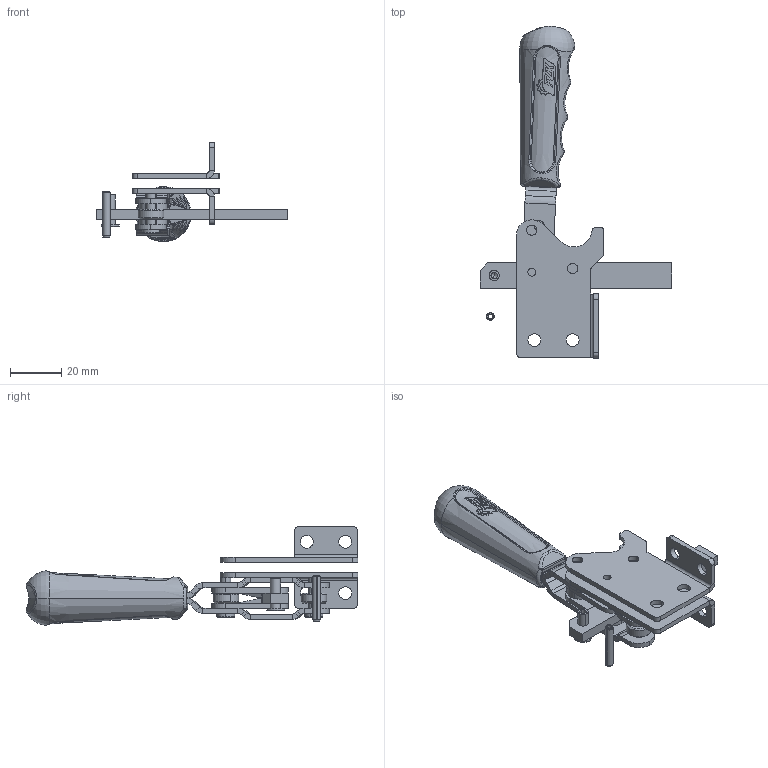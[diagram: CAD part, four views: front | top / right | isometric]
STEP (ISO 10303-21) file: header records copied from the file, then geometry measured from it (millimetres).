
FILE_DESCRIPTION (( 'STEP AP214' ), '1' );
FILE_NAME ('201_Y.STEP', '2024-09-09T16:26:53', ( '' ), ( '' ), 'SwSTEP 2.0', 'SolidWorks 2023', '' );
FILE_SCHEMA (( 'AUTOMOTIVE_DESIGN' ));
Length unit declared in the file: millimetre
Products named in the file (13): FZK_201_B_7_00; FZK_201_B_06_00; FZK_201_B_8_00; FZK_201_B_02A_00; FZK_201_B_04_00; FZK_201_B_02_00; spring pin slotted_hd_din_Spring Pin ISO 8752 - 3 x 18 - St; 201_Y; FZK_201_Y_01_00; FZK_201_B_03_00; DALDIRMA SAP; FZK_201_Y_02_00; FZK_201_B_05_00
Assembly tree (16 placements, depth 3):
  201_Y
    FZK_201_B_8_00  x2
    FZK_201_B_7_00  x2
    DALDIRMA SAP
    spring pin slotted_hd_din_Spring Pin ISO 8752 - 3 x 18 - St
    FZK_201_B_03_00
    FZK_201_B_02_00
      FZK_201_B_02A_00  x2
    FZK_201_Y_01_00
    FZK_201_Y_02_00
    FZK_201_B_06_00  x2
    FZK_201_B_04_00
    FZK_201_B_05_00
Bounding box: 75 x 129.85 x 38.69 mm (x, y, z)
Volume: 30563 mm3; surface area: 25891.7 mm2
Topology: 15 solids, 15 shells, 637 faces, 1555 edges, 951 vertices
Faces by surface type: bspline 213, cylinder 187, plane 168, cone 43, sphere 20, torus 6
Entity records: 28834 total; most frequent: CARTESIAN_POINT 17219, ORIENTED_EDGE 2658, DIRECTION 1781, EDGE_CURVE 1329, VERTEX_POINT 833, AXIS2_PLACEMENT_3D 711, EDGE_LOOP 598, B_SPLINE_CURVE_WITH_KNOTS 588
